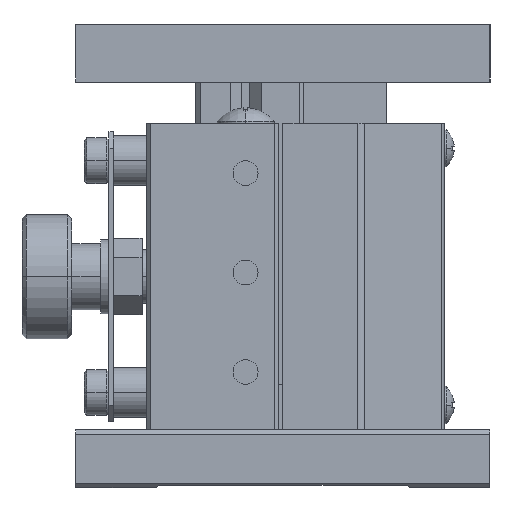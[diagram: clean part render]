
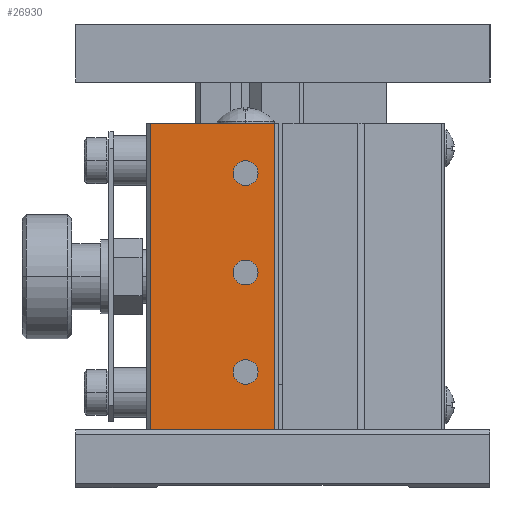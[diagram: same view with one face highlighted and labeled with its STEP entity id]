
A CAD part, left-side view. The second image highlights one B-rep face of the part: STEP entity #26930.
In plain terms, the highlighted planar face has unit normal (-1, 0, 0).
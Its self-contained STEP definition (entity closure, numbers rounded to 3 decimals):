
#4727 = CARTESIAN_POINT ( 'NONE',  ( -24., 4.5, 38. ) ) ;
#4746 = DIRECTION ( 'NONE',  ( 0., 0., 1. ) ) ;
#4747 = DIRECTION ( 'NONE',  ( -1., 0., 0. ) ) ;
#4748 = CARTESIAN_POINT ( 'NONE',  ( -24., 4.5, 26. ) ) ;
#4749 = AXIS2_PLACEMENT_3D ( 'NONE', #4748, #4747, #4746 ) ;
#4750 = CIRCLE ( 'NONE', #4749, 1.5 ) ;
#4779 = DIRECTION ( 'NONE',  ( 0., 0., 1. ) ) ;
#4780 = DIRECTION ( 'NONE',  ( -1., 0., 0. ) ) ;
#4781 = AXIS2_PLACEMENT_3D ( 'NONE', #4727, #4780, #4779 ) ;
#4782 = CIRCLE ( 'NONE', #4781, 1.5 ) ;
#4820 = DIRECTION ( 'NONE',  ( 0., 0., 1. ) ) ;
#4821 = DIRECTION ( 'NONE',  ( -1., 0., 0. ) ) ;
#4822 = CARTESIAN_POINT ( 'NONE',  ( -24., 4.5, 14. ) ) ;
#4823 = AXIS2_PLACEMENT_3D ( 'NONE', #4822, #4821, #4820 ) ;
#4827 = CIRCLE ( 'NONE', #4823, 1.5 ) ;
#5007 = CARTESIAN_POINT ( 'NONE',  ( -24., 1., 44. ) ) ;
#5008 = LINE ( 'NONE', #5007, #5073 ) ;
#5048 = DIRECTION ( 'NONE',  ( 0., 0., -1. ) ) ;
#5049 = DIRECTION ( 'NONE',  ( -1., 0., 0. ) ) ;
#5050 = CARTESIAN_POINT ( 'NONE',  ( -24., 1., 44. ) ) ;
#5052 = AXIS2_PLACEMENT_3D ( 'NONE', #5050, #5049, #5048 ) ;
#5053 = PLANE ( 'NONE',  #5052 ) ;
#5054 = FACE_OUTER_BOUND ( 'NONE', #26915, .T. ) ;
#5055 = FACE_BOUND ( 'NONE', #26912, .T. ) ;
#5056 = FACE_BOUND ( 'NONE', #26909, .T. ) ;
#5057 = FACE_BOUND ( 'NONE', #26906, .T. ) ;
#5058 = DIRECTION ( 'NONE',  ( 0., 0., -1. ) ) ;
#5059 = VECTOR ( 'NONE', #5058, 1000. ) ;
#5060 = CARTESIAN_POINT ( 'NONE',  ( -24., 16., 44. ) ) ;
#5066 = LINE ( 'NONE', #5060, #5059 ) ;
#5072 = DIRECTION ( 'NONE',  ( 0., 0., -1. ) ) ;
#5073 = VECTOR ( 'NONE', #5072, 1000. ) ;
#9162 = CARTESIAN_POINT ( 'NONE',  ( -24., 4.5, 39.5 ) ) ;
#9163 = DIRECTION ( 'NONE',  ( 0., 0., 1. ) ) ;
#9164 = DIRECTION ( 'NONE',  ( -1., 0., 0. ) ) ;
#9165 = CARTESIAN_POINT ( 'NONE',  ( -24., 4.5, 38. ) ) ;
#9166 = AXIS2_PLACEMENT_3D ( 'NONE', #9165, #9164, #9163 ) ;
#9167 = CIRCLE ( 'NONE', #9166, 1.5 ) ;
#9201 = CARTESIAN_POINT ( 'NONE',  ( -24., 4.5, 15.5 ) ) ;
#9202 = DIRECTION ( 'NONE',  ( 0., 0., 1. ) ) ;
#9203 = DIRECTION ( 'NONE',  ( -1., 0., 0. ) ) ;
#9204 = CARTESIAN_POINT ( 'NONE',  ( -24., 4.5, 14. ) ) ;
#9205 = AXIS2_PLACEMENT_3D ( 'NONE', #9204, #9203, #9202 ) ;
#9206 = CIRCLE ( 'NONE', #9205, 1.5 ) ;
#9208 = CARTESIAN_POINT ( 'NONE',  ( -24., 4.5, 12.5 ) ) ;
#9279 = CARTESIAN_POINT ( 'NONE',  ( -24., 4.5, 27.5 ) ) ;
#9280 = DIRECTION ( 'NONE',  ( 0., 0., 1. ) ) ;
#9281 = DIRECTION ( 'NONE',  ( -1., 0., 0. ) ) ;
#9282 = CARTESIAN_POINT ( 'NONE',  ( -24., 4.5, 26. ) ) ;
#9283 = AXIS2_PLACEMENT_3D ( 'NONE', #9282, #9281, #9280 ) ;
#9284 = CIRCLE ( 'NONE', #9283, 1.5 ) ;
#9285 = CARTESIAN_POINT ( 'NONE',  ( -24., 4.5, 24.5 ) ) ;
#9318 = CARTESIAN_POINT ( 'NONE',  ( -24., 4.5, 36.5 ) ) ;
#12746 = CARTESIAN_POINT ( 'NONE',  ( -24., 16., 7. ) ) ;
#12747 = DIRECTION ( 'NONE',  ( 0., 1., 0. ) ) ;
#12748 = VECTOR ( 'NONE', #12747, 1000. ) ;
#12749 = CARTESIAN_POINT ( 'NONE',  ( -24., 1., 7. ) ) ;
#12750 = LINE ( 'NONE', #12749, #12748 ) ;
#12751 = CARTESIAN_POINT ( 'NONE',  ( -24., 1., 7. ) ) ;
#13305 = CARTESIAN_POINT ( 'NONE',  ( -24., 1., 44. ) ) ;
#13306 = DIRECTION ( 'NONE',  ( 0., 1., 0. ) ) ;
#13307 = VECTOR ( 'NONE', #13306, 1000. ) ;
#13308 = CARTESIAN_POINT ( 'NONE',  ( -24., 1., 44. ) ) ;
#13309 = LINE ( 'NONE', #13308, #13307 ) ;
#13310 = CARTESIAN_POINT ( 'NONE',  ( -24., 16., 44. ) ) ;
#26724 = EDGE_CURVE ( 'NONE', #29441, #29438, #4750, .T. ) ;
#26741 = EDGE_CURVE ( 'NONE', #29370, #29452, #4782, .T. ) ;
#26783 = EDGE_CURVE ( 'NONE', #29419, #29416, #4827, .T. ) ;
#26906 = EDGE_LOOP ( 'NONE', ( #26907, #26908 ) ) ;
#26907 = ORIENTED_EDGE ( 'NONE', *, *, #26741, .F. ) ;
#26908 = ORIENTED_EDGE ( 'NONE', *, *, #29369, .F. ) ;
#26909 = EDGE_LOOP ( 'NONE', ( #26910, #26911 ) ) ;
#26910 = ORIENTED_EDGE ( 'NONE', *, *, #26724, .F. ) ;
#26911 = ORIENTED_EDGE ( 'NONE', *, *, #29440, .F. ) ;
#26912 = EDGE_LOOP ( 'NONE', ( #26913, #26914 ) ) ;
#26913 = ORIENTED_EDGE ( 'NONE', *, *, #26783, .F. ) ;
#26914 = ORIENTED_EDGE ( 'NONE', *, *, #29418, .F. ) ;
#26915 = EDGE_LOOP ( 'NONE', ( #26916, #26917, #26973, #26974 ) ) ;
#26916 = ORIENTED_EDGE ( 'NONE', *, *, #31042, .F. ) ;
#26917 = ORIENTED_EDGE ( 'NONE', *, *, #26918, .F. ) ;
#26918 = EDGE_CURVE ( 'NONE', #31389, #31040, #5008, .T. ) ;
#26927 = EDGE_CURVE ( 'NONE', #31386, #31043, #5066, .T. ) ;
#26930 = ADVANCED_FACE ( 'NONE', ( #5057, #5056, #5055, #5054 ), #5053, .T. ) ;
#26973 = ORIENTED_EDGE ( 'NONE', *, *, #31388, .T. ) ;
#26974 = ORIENTED_EDGE ( 'NONE', *, *, #26927, .T. ) ;
#29369 = EDGE_CURVE ( 'NONE', #29452, #29370, #9167, .T. ) ;
#29370 = VERTEX_POINT ( 'NONE', #9162 ) ;
#29416 = VERTEX_POINT ( 'NONE', #9208 ) ;
#29418 = EDGE_CURVE ( 'NONE', #29416, #29419, #9206, .T. ) ;
#29419 = VERTEX_POINT ( 'NONE', #9201 ) ;
#29438 = VERTEX_POINT ( 'NONE', #9285 ) ;
#29440 = EDGE_CURVE ( 'NONE', #29438, #29441, #9284, .T. ) ;
#29441 = VERTEX_POINT ( 'NONE', #9279 ) ;
#29452 = VERTEX_POINT ( 'NONE', #9318 ) ;
#31040 = VERTEX_POINT ( 'NONE', #12751 ) ;
#31042 = EDGE_CURVE ( 'NONE', #31040, #31043, #12750, .T. ) ;
#31043 = VERTEX_POINT ( 'NONE', #12746 ) ;
#31386 = VERTEX_POINT ( 'NONE', #13310 ) ;
#31388 = EDGE_CURVE ( 'NONE', #31389, #31386, #13309, .T. ) ;
#31389 = VERTEX_POINT ( 'NONE', #13305 ) ;
